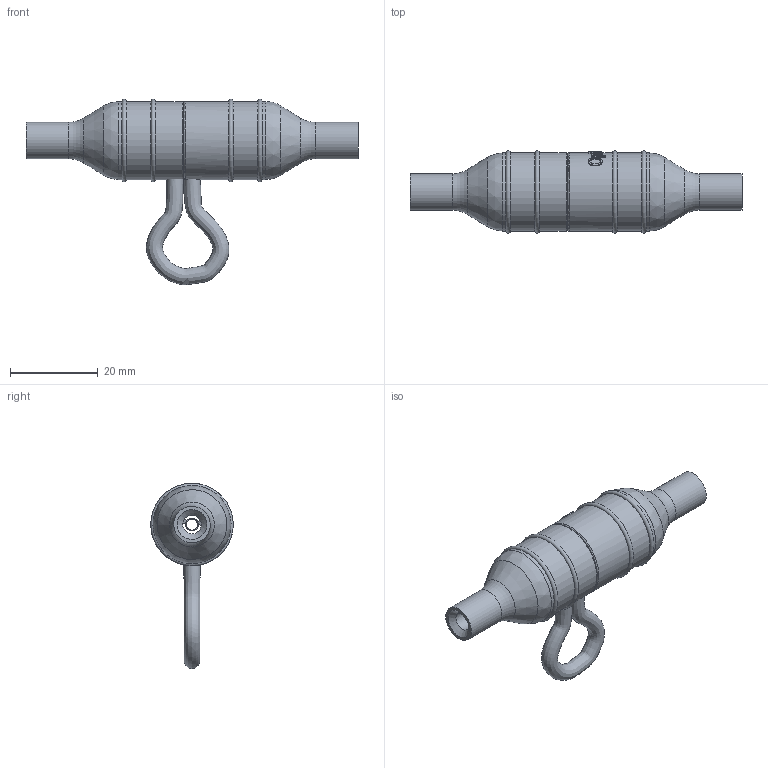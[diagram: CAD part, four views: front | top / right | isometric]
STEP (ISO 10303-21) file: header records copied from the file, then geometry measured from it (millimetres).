
FILE_DESCRIPTION(/* description */ (''),/* implementation_level */ '2;1');
FILE_NAME(/* name */ 'C:\Users\Hani\Desktop\work\LPA-03\LPA-03.stp',/* time_stamp */ '2021-07-24T08:26:04-07:00',/* author */ ('Hani'),/* organization */ (''),/* preprocessor_version */ 'ST-DEVELOPER v17',/* originating_system */ 'Autodesk Inventor 2019',/* authorisation */ '');
FILE_SCHEMA (('AUTOMOTIVE_DESIGN { 1 0 10303 214 3 1 1 }'));
Length unit declared in the file: inch
Products named in the file (4): LPA-03; LPA-03_1; LPA-03-Top; TERMINAL
Assembly tree (4 placements, depth 2):
  LPA-03
    LPA-03_1
    LPA-03-Top
    TERMINAL  x2
Bounding box: 75.56 x 18.8 x 42.21 mm (x, y, z)
Volume: 10716.4 mm3; surface area: 8076.9 mm2
Topology: 4 solids, 4 shells, 202 faces, 552 edges, 368 vertices
Faces by surface type: plane 76, bspline 70, cylinder 34, cone 12, torus 10
Full cylindrical faces by diameter (mm): 2.54 x2, 2.896 x2, 4.242 x2, 6.096 x2, 8.179 x2, 8.306 x2, 8.636 x2, 13.716 x2, 17.78 x6
Entity records: 8626 total; most frequent: CARTESIAN_POINT 3962, ORIENTED_EDGE 1034, DIRECTION 788, EDGE_CURVE 517, VERTEX_POINT 345, AXIS2_PLACEMENT_3D 281, LINE 226, VECTOR 226
